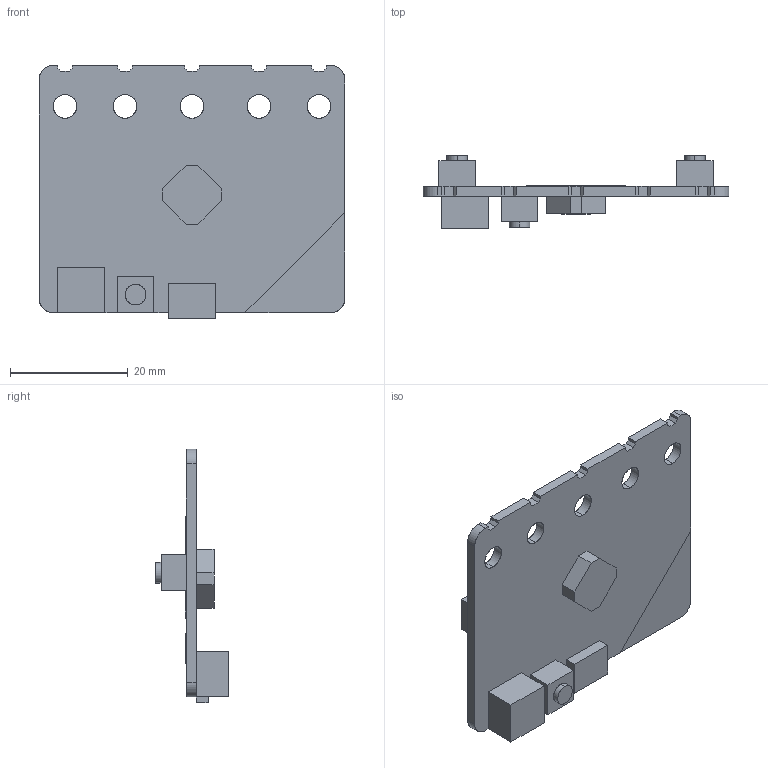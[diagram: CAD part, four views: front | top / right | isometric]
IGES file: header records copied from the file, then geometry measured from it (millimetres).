
Start section: SolidWorks IGES file using analytic representation for surfaces
Global section: file name: Z:\STIDD-Tronc commun\DEF_INNOV\microbit_v2.IGS; native system: SolidWorks 2022; preprocessor: SolidWorks 2022; author: laurent.fayat; date: 250403.160251; units: millimetre
Bounding box: 52 x 12.5 x 43.1 mm (x, y, z)
Surface area: 5363.3 mm2 (no closed solid volume)
Topology: 0 solids, 0 shells, 108 faces, 1234 edges, 1234 vertices
Faces by surface type: bspline 84, revolution 24
